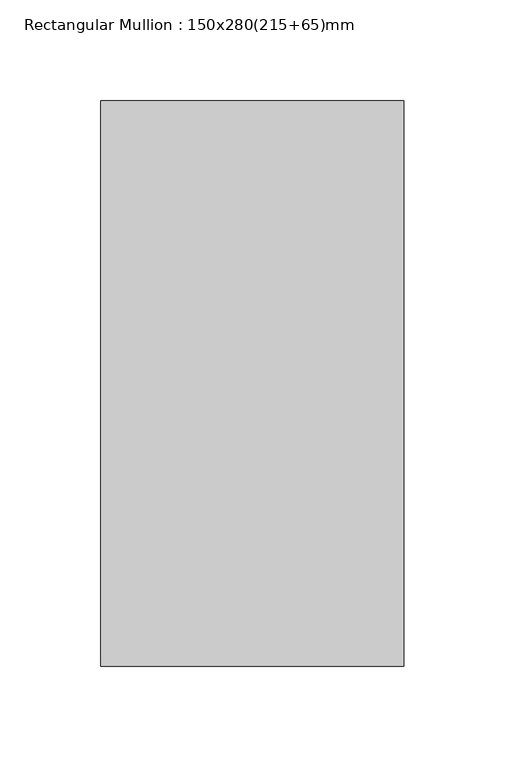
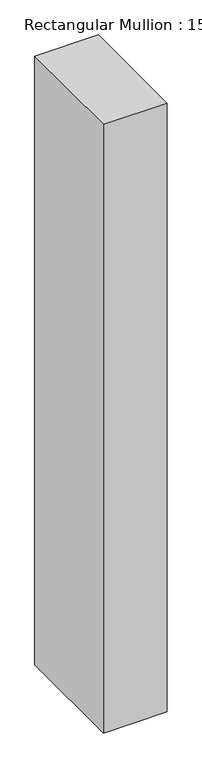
"""IFC4 building model written with IfcOpenShell, lengths in millimetres: member geometry, Rectangular Mullion : 150x280(215+65)mm."""

import ifcopenshell
import ifcopenshell.guid

model = None  # the IFC model being written
_history = None  # IfcOwnerHistory: only IFC2X3 demands one
_inside = {}  # id of a spatial element -> (the spatial element, [elements in it])
_under = {}  # id of a project, library or spatial element -> (it, [spatial elements below it])
_declared = {}  # id of a project -> (the project, [libraries it declares])
_typed = {}  # id of a type object -> (the type object, [elements of that type])
_made_of = {}  # id of a material, layer set ... -> (it, [elements and type objects made of it])


def new_model(schema):
    """Start an empty IFC model of exactly this schema.

    Asked for "IFC4X3", IfcOpenShell would pick the latest addendum, in which some entities
    have other attributes; the version numbers below select the first issue.
    IFC2X3 requires an IfcOwnerHistory on every rooted entity: one is made here for all.
    """
    global model, _history
    if schema == "IFC4X3":
        model = ifcopenshell.file(schema_version=(4, 3, 0, 0))
    else:
        model = ifcopenshell.file(schema=schema)
    _inside.clear()
    _under.clear()
    _declared.clear()
    _typed.clear()
    _made_of.clear()
    _history = None
    if model.schema == "IFC2X3":
        org = make("IfcOrganization", Name="unknown")
        user = make(
            "IfcPersonAndOrganization",
            ThePerson=make("IfcPerson", FamilyName="unknown"),
            TheOrganization=org,
        )
        app = make(
            "IfcApplication",
            ApplicationDeveloper=org,
            Version="unknown",
            ApplicationFullName="unknown",
            ApplicationIdentifier="unknown",
        )
        _history = make(
            "IfcOwnerHistory",
            OwningUser=user,
            OwningApplication=app,
            ChangeAction="ADDED",
            CreationDate=0,
        )
    return model


def make(cls, **values):
    """One entity of the class cls with the attributes given. An attribute that is None is left unset."""
    return model.create_entity(
        cls, **{name: value for name, value in values.items() if value is not None}
    )


def rooted(cls, **values):
    """An entity with a GlobalId (a new one), such as an element, a storey or a relation."""
    return make(cls, GlobalId=ifcopenshell.guid.new(), OwnerHistory=_history, **values)


def si_unit(unit_type, name, prefix=None):
    """IfcSIUnit, for example si_unit("LENGTHUNIT", "METRE", prefix="MILLI")."""
    return make("IfcSIUnit", UnitType=unit_type, Prefix=prefix, Name=name)


def assignment(units):
    """IfcUnitAssignment: the units of a project."""
    return None if units is None else make("IfcUnitAssignment", Units=units)


def point(xyz):
    """IfcCartesianPoint."""
    return None if xyz is None else make("IfcCartesianPoint", Coordinates=xyz)


def direction(xyz):
    """IfcDirection."""
    return None if xyz is None else make("IfcDirection", DirectionRatios=xyz)


def frame(location, z_axis=None, x_axis=None):
    """IfcAxis2Placement3D, a coordinate frame: its origin and axes. An axis left out is left unset."""
    return make(
        "IfcAxis2Placement3D",
        Location=point(location),
        Axis=direction(z_axis),
        RefDirection=direction(x_axis),
    )


def origin():
    """The frame at (0, 0, 0) with its axes left unset."""
    return frame((0.0, 0.0, 0.0))


def place(relative_to, where):
    """IfcLocalPlacement: puts the frame where relative to a parent placement (None: the world)."""
    return make(
        "IfcLocalPlacement", PlacementRelTo=relative_to, RelativePlacement=where
    )


def context(
    kind, dimensions, precision=None, world=None, true_north=None, identifier=None
):
    """IfcGeometricRepresentationContext, for example the 3D "Model" context."""
    return make(
        "IfcGeometricRepresentationContext",
        ContextIdentifier=identifier,
        ContextType=kind,
        CoordinateSpaceDimension=dimensions,
        Precision=precision,
        WorldCoordinateSystem=world,
        TrueNorth=true_north,
    )


def project(units=None, contexts=None):
    """IfcProject with its units and contexts."""
    return rooted(
        "IfcProject",
        Name="project",
        RepresentationContexts=contexts,
        UnitsInContext=assignment(units),
    )


def spatial(cls, under=None, at=None, **own):
    """A site, building, storey or space (cls), placed at a placement, below another one or the project."""
    s = rooted(cls, ObjectPlacement=at, **own)
    if under is not None:
        _under.setdefault(under.id(), (under, []))[1].append(s)
    return s


def polyline(points):
    """IfcPolyline through the points."""
    return make("IfcPolyline", Points=[point(p) for p in points])


def outline(outer, holes=None, kind="AREA"):
    """IfcArbitraryClosedProfileDef: a profile drawn as a closed curve; with holes, ...WithVoids."""
    if holes is None:
        return make("IfcArbitraryClosedProfileDef", ProfileType=kind, OuterCurve=outer)
    return make(
        "IfcArbitraryProfileDefWithVoids",
        ProfileType=kind,
        OuterCurve=outer,
        InnerCurves=holes,
    )


def extrude(swept, where, along, depth):
    """IfcExtrudedAreaSolid: the profile swept, set in the frame where, extruded along a direction by depth."""
    return make(
        "IfcExtrudedAreaSolid",
        SweptArea=swept,
        Position=where,
        ExtrudedDirection=direction(along),
        Depth=depth,
    )


def shape(context_of_items, identifier, shape_type, items):
    """IfcShapeRepresentation: the items that make up one representation, for example the "Body"."""
    return make(
        "IfcShapeRepresentation",
        ContextOfItems=context_of_items,
        RepresentationIdentifier=identifier,
        RepresentationType=shape_type,
        Items=items,
    )


def source(mapping_origin, context_of_items, identifier, shape_type, items):
    """IfcRepresentationMap: a shape defined once, which mapped items show again and again."""
    return make(
        "IfcRepresentationMap",
        MappingOrigin=mapping_origin,
        MappedRepresentation=shape(context_of_items, identifier, shape_type, items),
    )


def transform(
    local_origin,
    x_axis=None,
    y_axis=None,
    z_axis=None,
    scale=None,
    scale2=None,
    scale3=None,
    uniform=True,
):
    """IfcCartesianTransformationOperator3D, or its non-uniform kind. x_axis, y_axis, z_axis: its Axis1, 2, 3."""
    if uniform:
        return make(
            "IfcCartesianTransformationOperator3D",
            Axis1=direction(x_axis),
            Axis2=direction(y_axis),
            LocalOrigin=point(local_origin),
            Scale=scale,
            Axis3=direction(z_axis),
        )
    return make(
        "IfcCartesianTransformationOperator3DnonUniform",
        Axis1=direction(x_axis),
        Axis2=direction(y_axis),
        LocalOrigin=point(local_origin),
        Scale=scale,
        Axis3=direction(z_axis),
        Scale2=scale2,
        Scale3=scale3,
    )


def mapped(mapping_source, mapping_target):
    """IfcMappedItem: shows the shape of a source again, moved by a transform."""
    return make(
        "IfcMappedItem", MappingSource=mapping_source, MappingTarget=mapping_target
    )


def made_of(thing, what):
    """Note that an element or type object is made of a material, layer set ...; save() writes the relation."""
    if what is not None:
        _made_of.setdefault(what.id(), (what, []))[1].append(thing)
    return thing


def element(
    cls,
    number,
    at=None,
    inside=None,
    cuts=None,
    type_object=None,
    material=None,
    context=None,
    identifier="Body",
    shape_type=None,
    held_by="IfcProductDefinitionShape",
    body=None,
    shapes=None,
    **own,
):
    """One element of the class cls, such as IfcWall. Its Tag is "e" and its number.

    at: its placement. inside: the storey or other place that contains it. cuts: it is an
    opening in that element (IfcRelVoidsElement). A single representation is given by context,
    identifier, shape_type and body (its items); several are given by shapes. held_by: the class
    of the entity that holds the representations. save() writes the other relations.
    """
    e = rooted(cls, Tag="e%d" % number, ObjectPlacement=at, **own)
    if body is not None:
        shapes = [shape(context, identifier, shape_type, body)]
    if shapes is not None:
        e.Representation = make(held_by, Representations=shapes)
    if inside is not None:
        _inside.setdefault(inside.id(), (inside, []))[1].append(e)
    if cuts is not None:
        rooted(
            "IfcRelVoidsElement", RelatingBuildingElement=cuts, RelatedOpeningElement=e
        )
    if type_object is not None:
        _typed.setdefault(type_object.id(), (type_object, []))[1].append(e)
    return made_of(e, material)


def aggregate(whole, parts):
    """IfcRelAggregates: a whole, such as a stair, and the parts it consists of."""
    return rooted("IfcRelAggregates", RelatingObject=whole, RelatedObjects=parts)


def save(model, path):
    """Write the relations noted so far, then the file.

    IfcRelAggregates (storeys below a building ...), IfcRelContainedInSpatialStructure (elements
    in a storey), IfcRelDefinesByType, IfcRelAssociatesMaterial and IfcRelDeclares: one each for
    every whole, place, type object, material and project.
    """
    for whole, parts in _under.values():
        aggregate(whole, parts)
    for where, things in _inside.values():
        rooted(
            "IfcRelContainedInSpatialStructure",
            RelatedElements=things,
            RelatingStructure=where,
        )
    for kind, things in _typed.values():
        rooted("IfcRelDefinesByType", RelatedObjects=things, RelatingType=kind)
    for what, things in _made_of.values():
        rooted("IfcRelAssociatesMaterial", RelatedObjects=things, RelatingMaterial=what)
    for by, libraries in _declared.values():
        rooted("IfcRelDeclares", RelatingContext=by, RelatedDefinitions=libraries)
    model.write(path)


def rectangular_mullion_150x280_215_65_mm_918fdc33(model_context):
    return source(origin(), model_context, "Body", "SweptSolid", [
        extrude(outline(polyline([(75.0, 215.0), (75.0, -65.0), (-75.0, -65.0), (-75.0, 215.0), (75.0, 215.0)])), frame((0.0, 0.0, -1515.2336467), z_axis=(0.0, 0.0, 1.0), x_axis=(1.0, 0.0, 0.0)), (0.0, 0.0, 1.0), 1515.2336467),
    ])


if __name__ == "__main__":
    model = new_model("IFC4")
    model_context = context("Model", 3, world=origin())
    ifc_project = project(units=[si_unit("LENGTHUNIT", "METRE", prefix="MILLI")], contexts=[model_context])
    site = spatial("IfcSite", under=ifc_project)
    building = spatial("IfcBuilding", under=site)
    placement = place(None, origin())
    rectangular_mullion_150x280_215_65_mm_shape = rectangular_mullion_150x280_215_65_mm_918fdc33(model_context)
    element("IfcMember", 1, ObjectType="Rectangular Mullion : 150x280(215+65)mm", at=placement, inside=building, context=model_context, shape_type="MappedRepresentation", body=[
        mapped(rectangular_mullion_150x280_215_65_mm_shape, transform((0.0, 0.0, 0.0), x_axis=(1.0, 0.0, 0.0), y_axis=(0.0, 1.0, 0.0), z_axis=(0.0, 0.0, 1.0))),
    ])
    save(model, "model.ifc")
